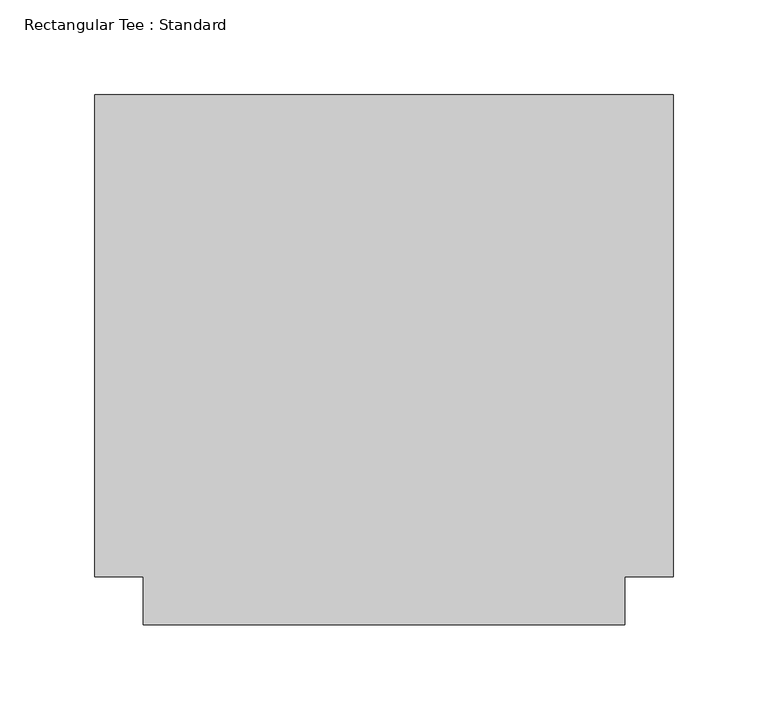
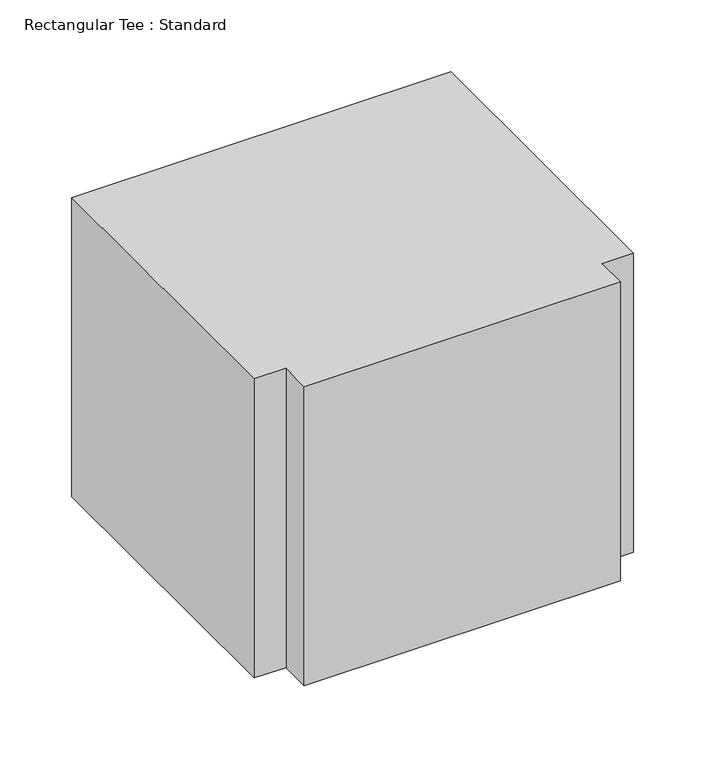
"""IFC4 building model written with IfcOpenShell, lengths in millimetres: duct fitting geometry, Rectangular Tee : Standard."""

import ifcopenshell
import ifcopenshell.guid

model = None  # the IFC model being written
_history = None  # IfcOwnerHistory: only IFC2X3 demands one
_inside = {}  # id of a spatial element -> (the spatial element, [elements in it])
_under = {}  # id of a project, library or spatial element -> (it, [spatial elements below it])
_declared = {}  # id of a project -> (the project, [libraries it declares])
_typed = {}  # id of a type object -> (the type object, [elements of that type])
_made_of = {}  # id of a material, layer set ... -> (it, [elements and type objects made of it])


def new_model(schema):
    """Start an empty IFC model of exactly this schema.

    Asked for "IFC4X3", IfcOpenShell would pick the latest addendum, in which some entities
    have other attributes; the version numbers below select the first issue.
    IFC2X3 requires an IfcOwnerHistory on every rooted entity: one is made here for all.
    """
    global model, _history
    if schema == "IFC4X3":
        model = ifcopenshell.file(schema_version=(4, 3, 0, 0))
    else:
        model = ifcopenshell.file(schema=schema)
    _inside.clear()
    _under.clear()
    _declared.clear()
    _typed.clear()
    _made_of.clear()
    _history = None
    if model.schema == "IFC2X3":
        org = make("IfcOrganization", Name="unknown")
        user = make(
            "IfcPersonAndOrganization",
            ThePerson=make("IfcPerson", FamilyName="unknown"),
            TheOrganization=org,
        )
        app = make(
            "IfcApplication",
            ApplicationDeveloper=org,
            Version="unknown",
            ApplicationFullName="unknown",
            ApplicationIdentifier="unknown",
        )
        _history = make(
            "IfcOwnerHistory",
            OwningUser=user,
            OwningApplication=app,
            ChangeAction="ADDED",
            CreationDate=0,
        )
    return model


def make(cls, **values):
    """One entity of the class cls with the attributes given. An attribute that is None is left unset."""
    return model.create_entity(
        cls, **{name: value for name, value in values.items() if value is not None}
    )


def rooted(cls, **values):
    """An entity with a GlobalId (a new one), such as an element, a storey or a relation."""
    return make(cls, GlobalId=ifcopenshell.guid.new(), OwnerHistory=_history, **values)


def si_unit(unit_type, name, prefix=None):
    """IfcSIUnit, for example si_unit("LENGTHUNIT", "METRE", prefix="MILLI")."""
    return make("IfcSIUnit", UnitType=unit_type, Prefix=prefix, Name=name)


def assignment(units):
    """IfcUnitAssignment: the units of a project."""
    return None if units is None else make("IfcUnitAssignment", Units=units)


def point(xyz):
    """IfcCartesianPoint."""
    return None if xyz is None else make("IfcCartesianPoint", Coordinates=xyz)


def direction(xyz):
    """IfcDirection."""
    return None if xyz is None else make("IfcDirection", DirectionRatios=xyz)


def frame(location, z_axis=None, x_axis=None):
    """IfcAxis2Placement3D, a coordinate frame: its origin and axes. An axis left out is left unset."""
    return make(
        "IfcAxis2Placement3D",
        Location=point(location),
        Axis=direction(z_axis),
        RefDirection=direction(x_axis),
    )


def origin():
    """The frame at (0, 0, 0) with its axes left unset."""
    return frame((0.0, 0.0, 0.0))


def place(relative_to, where):
    """IfcLocalPlacement: puts the frame where relative to a parent placement (None: the world)."""
    return make(
        "IfcLocalPlacement", PlacementRelTo=relative_to, RelativePlacement=where
    )


def context(
    kind, dimensions, precision=None, world=None, true_north=None, identifier=None
):
    """IfcGeometricRepresentationContext, for example the 3D "Model" context."""
    return make(
        "IfcGeometricRepresentationContext",
        ContextIdentifier=identifier,
        ContextType=kind,
        CoordinateSpaceDimension=dimensions,
        Precision=precision,
        WorldCoordinateSystem=world,
        TrueNorth=true_north,
    )


def project(units=None, contexts=None):
    """IfcProject with its units and contexts."""
    return rooted(
        "IfcProject",
        Name="project",
        RepresentationContexts=contexts,
        UnitsInContext=assignment(units),
    )


def spatial(cls, under=None, at=None, **own):
    """A site, building, storey or space (cls), placed at a placement, below another one or the project."""
    s = rooted(cls, ObjectPlacement=at, **own)
    if under is not None:
        _under.setdefault(under.id(), (under, []))[1].append(s)
    return s


def polyline(points):
    """IfcPolyline through the points."""
    return make("IfcPolyline", Points=[point(p) for p in points])


def outline(outer, holes=None, kind="AREA"):
    """IfcArbitraryClosedProfileDef: a profile drawn as a closed curve; with holes, ...WithVoids."""
    if holes is None:
        return make("IfcArbitraryClosedProfileDef", ProfileType=kind, OuterCurve=outer)
    return make(
        "IfcArbitraryProfileDefWithVoids",
        ProfileType=kind,
        OuterCurve=outer,
        InnerCurves=holes,
    )


def extrude(swept, where, along, depth):
    """IfcExtrudedAreaSolid: the profile swept, set in the frame where, extruded along a direction by depth."""
    return make(
        "IfcExtrudedAreaSolid",
        SweptArea=swept,
        Position=where,
        ExtrudedDirection=direction(along),
        Depth=depth,
    )


def shape(context_of_items, identifier, shape_type, items):
    """IfcShapeRepresentation: the items that make up one representation, for example the "Body"."""
    return make(
        "IfcShapeRepresentation",
        ContextOfItems=context_of_items,
        RepresentationIdentifier=identifier,
        RepresentationType=shape_type,
        Items=items,
    )


def source(mapping_origin, context_of_items, identifier, shape_type, items):
    """IfcRepresentationMap: a shape defined once, which mapped items show again and again."""
    return make(
        "IfcRepresentationMap",
        MappingOrigin=mapping_origin,
        MappedRepresentation=shape(context_of_items, identifier, shape_type, items),
    )


def transform(
    local_origin,
    x_axis=None,
    y_axis=None,
    z_axis=None,
    scale=None,
    scale2=None,
    scale3=None,
    uniform=True,
):
    """IfcCartesianTransformationOperator3D, or its non-uniform kind. x_axis, y_axis, z_axis: its Axis1, 2, 3."""
    if uniform:
        return make(
            "IfcCartesianTransformationOperator3D",
            Axis1=direction(x_axis),
            Axis2=direction(y_axis),
            LocalOrigin=point(local_origin),
            Scale=scale,
            Axis3=direction(z_axis),
        )
    return make(
        "IfcCartesianTransformationOperator3DnonUniform",
        Axis1=direction(x_axis),
        Axis2=direction(y_axis),
        LocalOrigin=point(local_origin),
        Scale=scale,
        Axis3=direction(z_axis),
        Scale2=scale2,
        Scale3=scale3,
    )


def mapped(mapping_source, mapping_target):
    """IfcMappedItem: shows the shape of a source again, moved by a transform."""
    return make(
        "IfcMappedItem", MappingSource=mapping_source, MappingTarget=mapping_target
    )


def made_of(thing, what):
    """Note that an element or type object is made of a material, layer set ...; save() writes the relation."""
    if what is not None:
        _made_of.setdefault(what.id(), (what, []))[1].append(thing)
    return thing


def element(
    cls,
    number,
    at=None,
    inside=None,
    cuts=None,
    type_object=None,
    material=None,
    context=None,
    identifier="Body",
    shape_type=None,
    held_by="IfcProductDefinitionShape",
    body=None,
    shapes=None,
    **own,
):
    """One element of the class cls, such as IfcWall. Its Tag is "e" and its number.

    at: its placement. inside: the storey or other place that contains it. cuts: it is an
    opening in that element (IfcRelVoidsElement). A single representation is given by context,
    identifier, shape_type and body (its items); several are given by shapes. held_by: the class
    of the entity that holds the representations. save() writes the other relations.
    """
    e = rooted(cls, Tag="e%d" % number, ObjectPlacement=at, **own)
    if body is not None:
        shapes = [shape(context, identifier, shape_type, body)]
    if shapes is not None:
        e.Representation = make(held_by, Representations=shapes)
    if inside is not None:
        _inside.setdefault(inside.id(), (inside, []))[1].append(e)
    if cuts is not None:
        rooted(
            "IfcRelVoidsElement", RelatingBuildingElement=cuts, RelatedOpeningElement=e
        )
    if type_object is not None:
        _typed.setdefault(type_object.id(), (type_object, []))[1].append(e)
    return made_of(e, material)


def aggregate(whole, parts):
    """IfcRelAggregates: a whole, such as a stair, and the parts it consists of."""
    return rooted("IfcRelAggregates", RelatingObject=whole, RelatedObjects=parts)


def save(model, path):
    """Write the relations noted so far, then the file.

    IfcRelAggregates (storeys below a building ...), IfcRelContainedInSpatialStructure (elements
    in a storey), IfcRelDefinesByType, IfcRelAssociatesMaterial and IfcRelDeclares: one each for
    every whole, place, type object, material and project.
    """
    for whole, parts in _under.values():
        aggregate(whole, parts)
    for where, things in _inside.values():
        rooted(
            "IfcRelContainedInSpatialStructure",
            RelatedElements=things,
            RelatingStructure=where,
        )
    for kind, things in _typed.values():
        rooted("IfcRelDefinesByType", RelatedObjects=things, RelatingType=kind)
    for what, things in _made_of.values():
        rooted("IfcRelAssociatesMaterial", RelatedObjects=things, RelatingMaterial=what)
    for by, libraries in _declared.values():
        rooted("IfcRelDeclares", RelatingContext=by, RelatedDefinitions=libraries)
    model.write(path)


def rectangular_tee_standard_e1dfbba3(model_context):
    return source(origin(), model_context, "Body", "SweptSolid", [
        extrude(outline(polyline([(-152.4, -127.0), (-152.4, 127.0), (152.4, 127.0), (152.4, -127.0), (127.0, -127.0), (127.0, -152.4), (-127.0, -152.4), (-127.0, -127.0), (-152.4, -127.0)])), frame((0.0, 0.0, -127.0), z_axis=(0.0, 0.0, 1.0), x_axis=(1.0, 0.0, 0.0)), (0.0, 0.0, 1.0), 254.0),
    ])


if __name__ == "__main__":
    model = new_model("IFC4")
    model_context = context("Model", 3, world=origin())
    ifc_project = project(units=[si_unit("LENGTHUNIT", "METRE", prefix="MILLI")], contexts=[model_context])
    site = spatial("IfcSite", under=ifc_project)
    building = spatial("IfcBuilding", under=site)
    placement = place(None, origin())
    rectangular_tee_standard_shape = rectangular_tee_standard_e1dfbba3(model_context)
    element("IfcDuctFitting", 1, ObjectType="Rectangular Tee : Standard", at=placement, inside=building, context=model_context, shape_type="MappedRepresentation", body=[
        mapped(rectangular_tee_standard_shape, transform((0.0, 0.0, 0.0), x_axis=(1.0, 0.0, 0.0), y_axis=(0.0, 1.0, 0.0), z_axis=(0.0, 0.0, 1.0))),
    ])
    save(model, "model.ifc")
